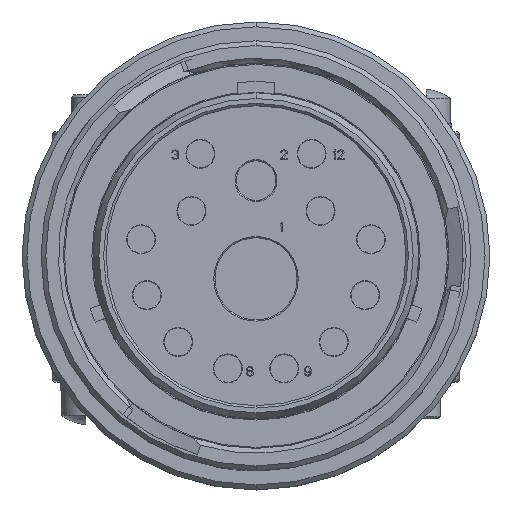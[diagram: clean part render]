
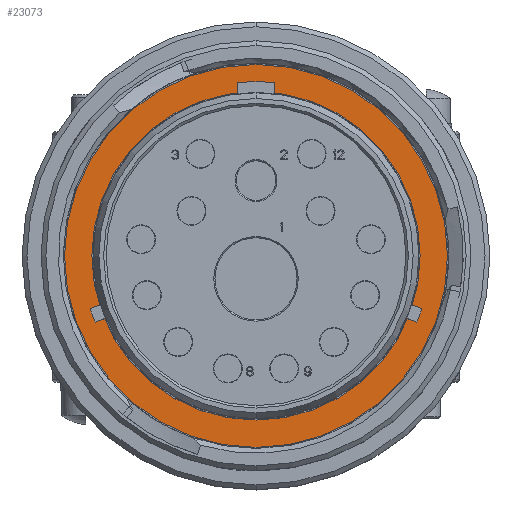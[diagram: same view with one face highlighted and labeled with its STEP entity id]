
A CAD part, top view. The second image highlights one B-rep face of the part: STEP entity #23073.
In plain terms, the highlighted planar face has unit normal (0, 0, 1).
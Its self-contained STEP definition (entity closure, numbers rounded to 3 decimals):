
#9082=CARTESIAN_POINT('',(0.,0.,-11.862));
#9083=DIRECTION('',(0.,0.,-1.));
#9084=DIRECTION('',(0.,1.,0.));
#9085=AXIS2_PLACEMENT_3D('',#9082,#9083,#9084);
#9087=CARTESIAN_POINT('',(0.,0.,-11.862));
#9088=DIRECTION('',(0.,0.,1.));
#9089=DIRECTION('',(0.,1.,0.));
#9090=AXIS2_PLACEMENT_3D('',#9087,#9088,#9089);
#9100=CARTESIAN_POINT('',(0.,0.,-11.862));
#9101=DIRECTION('',(0.,0.,1.));
#9102=DIRECTION('',(0.,1.,0.));
#9103=AXIS2_PLACEMENT_3D('',#9100,#9101,#9102);
#9105=CARTESIAN_POINT('',(0.,0.,-11.862));
#9106=DIRECTION('',(0.,0.,-1.));
#9107=DIRECTION('',(0.,1.,0.));
#9108=AXIS2_PLACEMENT_3D('',#9105,#9106,#9107);
#14497=CARTESIAN_POINT('',(0.,17.31,-11.862));
#14499=VERTEX_POINT('',#14497);
#14509=CARTESIAN_POINT('',(0.,-17.31,-11.862));
#14511=VERTEX_POINT('',#14509);
#14523=CARTESIAN_POINT('',(0.,20.193,-11.862));
#14524=CARTESIAN_POINT('',(0.,-20.193,-11.862));
#14525=VERTEX_POINT('',#14523);
#14526=VERTEX_POINT('',#14524);
#23058=CARTESIAN_POINT('',(0.,0.,-11.862));
#23059=DIRECTION('',(0.,0.,-1.));
#23060=DIRECTION('',(0.,-1.,0.));
#23061=AXIS2_PLACEMENT_3D('',#23058,#23059,#23060);
#23062=PLANE('',#23061);
#23063=ORIENTED_EDGE('',*,*,#23038,.T.);
#23064=ORIENTED_EDGE('',*,*,#23052,.F.);
#23065=EDGE_LOOP('',(#23063,#23064));
#23066=FACE_OUTER_BOUND('',#23065,.F.);
#23068=ORIENTED_EDGE('',*,*,#23067,.T.);
#23070=ORIENTED_EDGE('',*,*,#23069,.F.);
#23071=EDGE_LOOP('',(#23068,#23070));
#23072=FACE_BOUND('',#23071,.F.);
#23073=ADVANCED_FACE('',(#23066,#23072),#23062,.F.);
#9086=CIRCLE('',#9085,20.193);
#9091=CIRCLE('',#9090,20.193);
#9104=CIRCLE('',#9103,17.31);
#9109=CIRCLE('',#9108,17.31);
#23038=EDGE_CURVE('',#14525,#14526,#9086,.T.);
#23052=EDGE_CURVE('',#14525,#14526,#9091,.T.);
#23067=EDGE_CURVE('',#14499,#14511,#9104,.T.);
#23069=EDGE_CURVE('',#14499,#14511,#9109,.T.);
